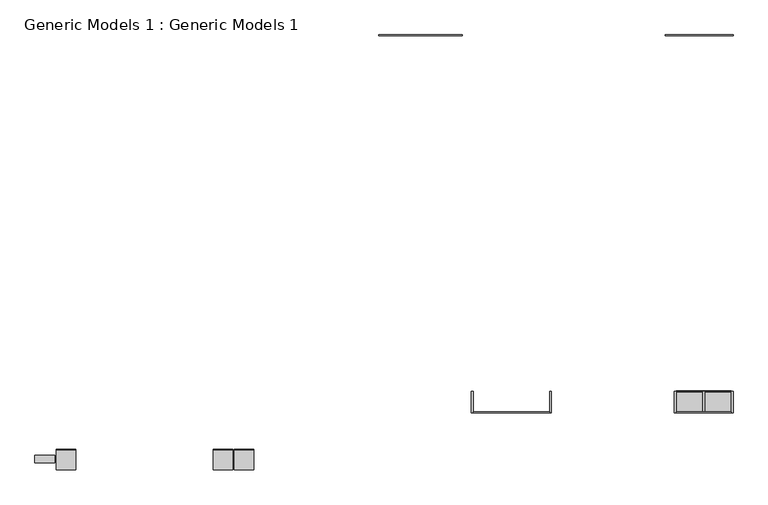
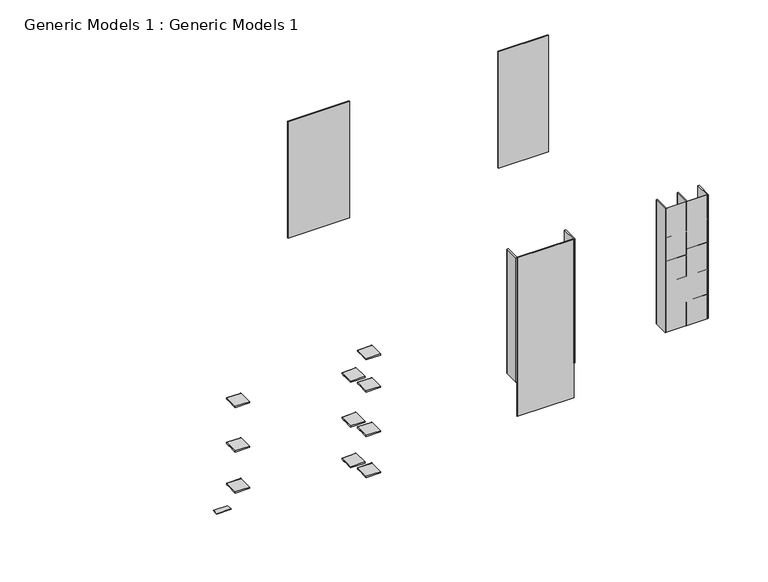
"""IFC4 building model written with IfcOpenShell, lengths in millimetres: proxy geometry, Generic Models 1 : Generic Models 1."""

from ifc_helpers import new_model, si_unit, point, frame, frame_2d, origin, origin_with_axes, place, context, project, spatial, polyline, circle_curve, trimmed, segment, composite_curve, outline, extrude, source, transform, mapped, element, save
from ifc_brep_helpers import plane_surface, cylinder_surface, advanced_brep


def generic_models_1_generic_models_1_fe2f22d1(model_context):
    return source(origin(), model_context, "Body", "SolidModel", [
        extrude(outline(polyline([(-701.4531836, -2690.6595241), (-81.4531836, -2690.6595241), (-81.4531836, -2700.6595241), (-701.4531836, -2700.6595241), (-701.4531836, -2690.6595241)])), frame((0.0, 0.0, 560.0), z_axis=(0.0, 0.0, 1.0), x_axis=(1.0, 0.0, 0.0)), (0.0, 0.0, 1.0), 2000.0),
        extrude(outline(polyline([(-2981.4531836, -2690.6595241), (-2121.4531836, -2690.6595241), (-2121.4531836, -2700.6595241), (-2981.4531836, -2700.6595241), (-2981.4531836, -2690.6595241)])), origin_with_axes(), (0.0, 0.0, 1.0), 2560.0),
        extrude(outline(polyline([(-61.4531836, 1539.3404759), (-821.4531836, 1539.3404759), (-821.4531836, 1549.3404759), (-61.4531836, 1549.3404759), (-61.4531836, 1539.3404759)])), frame((0.0, 0.0, 680.0), z_axis=(0.0, 0.0, 1.0), x_axis=(1.0, 0.0, 0.0)), (0.0, 0.0, 1.0), 1880.0),
        extrude(outline(polyline([(-3101.4531836, 1539.3404759), (-4041.4531836, 1539.3404759), (-4041.4531836, 1549.3404759), (-3101.4531836, 1549.3404759), (-3101.4531836, 1539.3404759)])), frame((0.0, 0.0, 680.0), z_axis=(0.0, 0.0, 1.0), x_axis=(1.0, 0.0, 0.0)), (0.0, 0.0, 1.0), 1880.0),
        advanced_brep(
        [(-3001.4531836, -2700.6595241, 2560.0), (-2981.4531836, -2700.6595241, 2560.0), (-2981.4531836, -2459.6595241, 2560.0), (-2983.4531836, -2457.6595241, 2560.0), (-2999.4531836, -2457.6595241, 2560.0), (-3001.4531836, -2459.6595241, 2560.0), (-3001.4531836, -2700.6595241, 560.0), (-3001.4531836, -2459.6595241, 560.0), (-2999.4531836, -2457.6595241, 560.0), (-2983.4531836, -2457.6595241, 560.0), (-2981.4531836, -2459.6595241, 560.0), (-2981.4531836, -2700.6595241, 560.0)],
        [
            (0, 1),
            (1, 2),
            (2, 3, circle_curve(frame((-2983.4531836, -2459.6595241, 2560.0), z_axis=(0.0, 0.0, 1.0), x_axis=(1.0, 0.0, 0.0)), 2.0)),
            (3, 4),
            (4, 5, circle_curve(frame((-2999.4531836, -2459.6595241, 2560.0), z_axis=(0.0, 0.0, 1.0), x_axis=(1.0, 0.0, 0.0)), 2.0)),
            (5, 0),
            (6, 7),
            (7, 8, circle_curve(frame((-2999.4531836, -2459.6595241, 560.0), z_axis=(0.0, 0.0, -1.0), x_axis=(1.0, 0.0, 0.0)), 2.0)),
            (8, 9),
            (9, 10, circle_curve(frame((-2983.4531836, -2459.6595241, 560.0), z_axis=(0.0, 0.0, -1.0), x_axis=(1.0, 0.0, 0.0)), 2.0)),
            (10, 11),
            (11, 6),
            (0, 6),
            (11, 1),
            (10, 2),
            (9, 3),
            (8, 4),
            (7, 5),
        ],
        [
            plane_surface(frame((-2981.4531836, -2700.6595241, 2560.0), z_axis=(0.0, 0.0, 1.0), x_axis=(1.0, 0.0, 0.0))),
            plane_surface(frame((-2981.4531836, -2700.6595241, 560.0), z_axis=(0.0, 0.0, -1.0), x_axis=(-1.0, 0.0, 0.0))),
            plane_surface(frame((-3001.4531836, -2700.6595241, 2560.0), z_axis=(0.0, -1.0, 0.0), x_axis=(0.0, 0.0, -1.0))),
            plane_surface(frame((-2981.4531836, -2700.6595241, 2560.0), z_axis=(1.0, 0.0, 0.0), x_axis=(0.0, 0.0, -1.0))),
            cylinder_surface(frame((-2983.4531836, -2459.6595241, 560.0), z_axis=(0.0, 0.0, 1.0), x_axis=(1.0, 0.0, 0.0)), 2.0),
            plane_surface(frame((-2983.4531836, -2457.6595241, 2560.0), z_axis=(0.0, 1.0, 0.0), x_axis=(0.0, 0.0, -1.0))),
            cylinder_surface(frame((-2999.4531836, -2459.6595241, 560.0), z_axis=(0.0, 0.0, 1.0), x_axis=(1.0, 0.0, 0.0)), 2.0),
            plane_surface(frame((-3001.4531836, -2459.6595241, 2560.0), z_axis=(-1.0, 0.0, 0.0), x_axis=(0.0, 0.0, -1.0))),
        ],
        [
            (0, [[1, 2, 3, 4, 5, 6]]),
            (1, [[7, 8, 9, 10, 11, 12]]),
            (2, [[-1, 13, -12, 14]]),
            (3, [[-2, -14, -11, 15]]),
            (4, [[-3, -15, -10, 16]]),
            (5, [[-4, -16, -9, 17]]),
            (6, [[-5, -17, -8, 18]]),
            (7, [[-6, -18, -7, -13]]),
        ],
    ),
        advanced_brep(
        [(-2121.4531836, -2700.6595241, 2560.0), (-2101.4531836, -2700.6595241, 2560.0), (-2101.4531836, -2459.6595241, 2560.0), (-2103.4531836, -2457.6595241, 2560.0), (-2119.4531836, -2457.6595241, 2560.0), (-2121.4531836, -2459.6595241, 2560.0), (-2121.4531836, -2700.6595241, 560.0), (-2121.4531836, -2459.6595241, 560.0), (-2119.4531836, -2457.6595241, 560.0), (-2103.4531836, -2457.6595241, 560.0), (-2101.4531836, -2459.6595241, 560.0), (-2101.4531836, -2700.6595241, 560.0)],
        [
            (0, 1),
            (1, 2),
            (2, 3, circle_curve(frame((-2103.4531836, -2459.6595241, 2560.0), z_axis=(0.0, 0.0, 1.0), x_axis=(1.0, 0.0, 0.0)), 2.0)),
            (3, 4),
            (4, 5, circle_curve(frame((-2119.4531836, -2459.6595241, 2560.0), z_axis=(0.0, 0.0, 1.0), x_axis=(1.0, 0.0, 0.0)), 2.0)),
            (5, 0),
            (6, 7),
            (7, 8, circle_curve(frame((-2119.4531836, -2459.6595241, 560.0), z_axis=(0.0, 0.0, -1.0), x_axis=(1.0, 0.0, 0.0)), 2.0)),
            (8, 9),
            (9, 10, circle_curve(frame((-2103.4531836, -2459.6595241, 560.0), z_axis=(0.0, 0.0, -1.0), x_axis=(1.0, 0.0, 0.0)), 2.0)),
            (10, 11),
            (11, 6),
            (0, 6),
            (11, 1),
            (10, 2),
            (9, 3),
            (8, 4),
            (7, 5),
        ],
        [
            plane_surface(frame((-2981.4531836, -2700.6595241, 2560.0), z_axis=(0.0, 0.0, 1.0), x_axis=(1.0, 0.0, 0.0))),
            plane_surface(frame((-2981.4531836, -2700.6595241, 560.0), z_axis=(0.0, 0.0, -1.0), x_axis=(-1.0, 0.0, 0.0))),
            plane_surface(frame((-2121.4531836, -2700.6595241, 2560.0), z_axis=(0.0, -1.0, 0.0), x_axis=(0.0, 0.0, -1.0))),
            plane_surface(frame((-2101.4531836, -2700.6595241, 2560.0), z_axis=(1.0, 0.0, 0.0), x_axis=(0.0, 0.0, -1.0))),
            cylinder_surface(frame((-2103.4531836, -2459.6595241, 0.0), z_axis=(0.0, 0.0, 1.0), x_axis=(1.0, 0.0, 0.0)), 2.0),
            plane_surface(frame((-2103.4531836, -2457.6595241, 2560.0), z_axis=(0.0, 1.0, 0.0), x_axis=(0.0, 0.0, -1.0))),
            cylinder_surface(frame((-2119.4531836, -2459.6595241, 0.0), z_axis=(0.0, 0.0, 1.0), x_axis=(1.0, 0.0, 0.0)), 2.0),
            plane_surface(frame((-2121.4531836, -2459.6595241, 2560.0), z_axis=(-1.0, 0.0, 0.0), x_axis=(0.0, 0.0, -1.0))),
        ],
        [
            (0, [[1, 2, 3, 4, 5, 6]]),
            (1, [[7, 8, 9, 10, 11, 12]]),
            (2, [[-1, 13, -12, 14]]),
            (3, [[-2, -14, -11, 15]]),
            (4, [[-3, -15, -10, 16]]),
            (5, [[-4, -16, -9, 17]]),
            (6, [[-5, -17, -8, 18]]),
            (7, [[-6, -18, -7, -13]]),
        ],
    ),
        advanced_brep(
        [(-721.4531836, -2700.6595241, 2560.0), (-701.4531836, -2700.6595241, 2560.0), (-701.4531836, -2459.6595241, 2560.0), (-703.4531836, -2457.6595241, 2560.0), (-719.4531836, -2457.6595241, 2560.0), (-721.4531836, -2459.6595241, 2560.0), (-383.4531836, -2457.6595241, 2560.0), (-399.4531836, -2457.6595241, 2560.0), (-401.4531836, -2459.6595241, 2560.0), (-401.4531836, -2700.6595241, 2560.0), (-381.4531836, -2700.6595241, 2560.0), (-381.4531836, -2459.6595241, 2560.0), (-81.4531836, -2700.6595241, 2560.0), (-61.4531836, -2700.6595241, 2560.0), (-61.4531836, -2459.6595241, 2560.0), (-63.4531836, -2457.6595241, 2560.0), (-79.4531836, -2457.6595241, 2560.0), (-81.4531836, -2459.6595241, 2560.0), (-721.4531836, -2700.6595241, 560.0), (-721.4531836, -2459.6595241, 560.0), (-719.4531836, -2457.6595241, 560.0), (-703.4531836, -2457.6595241, 560.0), (-701.4531836, -2459.6595241, 560.0), (-701.4531836, -2700.6595241, 560.0), (-383.4531836, -2457.6595241, 560.0), (-381.4531836, -2459.6595241, 560.0), (-381.4531836, -2700.6595241, 560.0), (-401.4531836, -2700.6595241, 560.0), (-401.4531836, -2459.6595241, 560.0), (-399.4531836, -2457.6595241, 560.0), (-81.4531836, -2700.6595241, 560.0), (-81.4531836, -2459.6595241, 560.0), (-79.4531836, -2457.6595241, 560.0), (-63.4531836, -2457.6595241, 560.0), (-61.4531836, -2459.6595241, 560.0), (-61.4531836, -2700.6595241, 560.0), (-701.4531836, -2700.6595241, 940.0), (-401.4531836, -2700.6595241, 940.0), (-381.4531836, -2700.6595241, 940.0), (-81.4531836, -2700.6595241, 940.0), (-81.4531836, -2700.6595241, 2180.0), (-381.4531836, -2700.6595241, 2180.0), (-401.4531836, -2700.6595241, 2090.0), (-701.4531836, -2700.6595241, 2090.0), (-701.4531836, -2700.6595241, 1340.0), (-81.4531836, -2700.6595241, 1340.0), (-81.4531836, -2700.6595241, 960.0), (-701.4531836, -2700.6595241, 960.0), (-81.4531836, -2700.6595241, 1800.0), (-381.4531836, -2700.6595241, 1800.0), (-381.4531836, -2700.6595241, 2160.0), (-81.4531836, -2700.6595241, 2160.0), (-381.4531836, -2700.6595241, 1780.0), (-81.4531836, -2700.6595241, 1780.0), (-81.4531836, -2700.6595241, 1360.0), (-381.4531836, -2700.6595241, 1360.0), (-701.4531836, -2700.6595241, 2070.0), (-401.4531836, -2700.6595241, 2070.0), (-401.4531836, -2700.6595241, 1710.0), (-701.4531836, -2700.6595241, 1710.0), (-701.4531836, -2700.6595241, 1360.0), (-701.4531836, -2700.6595241, 1690.0), (-401.4531836, -2700.6595241, 1690.0), (-401.4531836, -2700.6595241, 1360.0), (-701.4531836, -2463.7614281, 2090.0), (-701.4531836, -2461.7614281, 2088.0), (-701.4531836, -2461.7614281, 2072.0), (-701.4531836, -2463.7614281, 2070.0), (-701.4531836, -2532.321744, 2070.0), (-701.4531836, -2532.321744, 2075.0), (-701.4531836, -2632.321744, 2075.0), (-701.4531836, -2632.321744, 2070.0), (-701.4531836, -2463.7614281, 1710.0), (-701.4531836, -2461.7614281, 1708.0), (-701.4531836, -2461.7614281, 1692.0), (-701.4531836, -2463.7614281, 1690.0), (-701.4531836, -2532.321744, 1690.0), (-701.4531836, -2532.321744, 1700.0), (-701.4531836, -2632.321744, 1700.0), (-701.4531836, -2632.321744, 1690.0), (-701.4531836, -2459.6595241, 1360.0), (-701.4531836, -2459.6595241, 940.0), (-701.4531836, -2532.321744, 940.0), (-701.4531836, -2532.321744, 950.0), (-701.4531836, -2632.321744, 950.0), (-701.4531836, -2632.321744, 940.0), (-701.4531836, -2632.321744, 1340.0), (-701.4531836, -2459.6595241, 960.0), (-701.4531836, -2459.6595241, 1340.0), (-701.4531836, -2532.321744, 1340.0), (-701.4531836, -2532.321744, 1350.0), (-701.4531836, -2632.321744, 1350.0), (-383.4531836, -2457.6595241, 1360.0), (-399.4531836, -2457.6595241, 1360.0), (-399.4531836, -2457.6595241, 940.0), (-383.4531836, -2457.6595241, 940.0), (-401.4531836, -2459.6595241, 1360.0), (-401.4531836, -2459.6595241, 940.0), (-401.4531836, -2632.321744, 1690.0), (-401.4531836, -2632.321744, 1700.0), (-401.4531836, -2532.321744, 1700.0), (-401.4531836, -2532.321744, 1690.0), (-401.4531836, -2463.7614281, 1690.0), (-401.4531836, -2461.7614281, 1692.0), (-401.4531836, -2461.7614281, 1708.0), (-401.4531836, -2463.7614281, 1710.0), (-401.4531836, -2632.321744, 2070.0), (-401.4531836, -2632.321744, 2075.0), (-401.4531836, -2532.321744, 2075.0), (-401.4531836, -2532.321744, 2070.0), (-401.4531836, -2463.7614281, 2070.0), (-401.4531836, -2461.7614281, 2072.0), (-401.4531836, -2461.7614281, 2088.0), (-401.4531836, -2463.7614281, 2090.0), (-401.4531836, -2632.321744, 940.0), (-401.4531836, -2532.321744, 940.0), (-381.4531836, -2463.7614281, 2180.0), (-381.4531836, -2461.7614281, 2178.0), (-381.4531836, -2461.7614281, 2162.0), (-381.4531836, -2463.7614281, 2160.0), (-381.4531836, -2532.321744, 2160.0), (-381.4531836, -2532.321744, 2170.0), (-381.4531836, -2632.321744, 2170.0), (-381.4531836, -2632.321744, 2160.0), (-381.4531836, -2463.7614281, 1800.0), (-381.4531836, -2461.7614281, 1798.0), (-381.4531836, -2461.7614281, 1782.0), (-381.4531836, -2463.7614281, 1780.0), (-381.4531836, -2532.321744, 1780.0), (-381.4531836, -2532.321744, 1790.0), (-381.4531836, -2632.321744, 1790.0), (-381.4531836, -2632.321744, 1780.0), (-381.4531836, -2459.6595241, 1360.0), (-381.4531836, -2459.6595241, 940.0), (-381.4531836, -2532.321744, 940.0), (-381.4531836, -2632.321744, 940.0), (-81.4531836, -2459.6595241, 940.0), (-81.4531836, -2459.6595241, 960.0), (-81.4531836, -2459.6595241, 1340.0), (-81.4531836, -2459.6595241, 1360.0), (-81.4531836, -2632.321744, 1780.0), (-81.4531836, -2632.321744, 1790.0), (-81.4531836, -2532.321744, 1790.0), (-81.4531836, -2532.321744, 1780.0), (-81.4531836, -2463.7614281, 1780.0), (-81.4531836, -2461.7614281, 1782.0), (-81.4531836, -2461.7614281, 1798.0), (-81.4531836, -2463.7614281, 1800.0), (-81.4531836, -2632.321744, 2160.0), (-81.4531836, -2632.321744, 2170.0), (-81.4531836, -2532.321744, 2170.0), (-81.4531836, -2532.321744, 2160.0), (-81.4531836, -2463.7614281, 2160.0), (-81.4531836, -2461.7614281, 2162.0), (-81.4531836, -2461.7614281, 2178.0), (-81.4531836, -2463.7614281, 2180.0), (-81.4531836, -2632.321744, 940.0), (-81.4531836, -2632.321744, 950.0), (-81.4531836, -2532.321744, 950.0), (-81.4531836, -2532.321744, 940.0), (-81.4531836, -2632.321744, 1340.0), (-81.4531836, -2632.321744, 1350.0), (-81.4531836, -2532.321744, 1350.0), (-81.4531836, -2532.321744, 1340.0), (-81.4531836, -2456.6595241, 1340.0), (-81.4531836, -2454.6595241, 1342.0), (-81.4531836, -2454.6595241, 1358.0), (-81.4531836, -2456.6595241, 1360.0), (-701.4531836, -2456.6595241, 1360.0), (-701.4531836, -2454.6595241, 1358.0), (-701.4531836, -2454.6595241, 1342.0), (-701.4531836, -2456.6595241, 1340.0), (-81.4531836, -2456.6595241, 940.0), (-81.4531836, -2454.6595241, 942.0), (-81.4531836, -2454.6595241, 958.0), (-81.4531836, -2456.6595241, 960.0), (-701.4531836, -2456.6595241, 960.0), (-701.4531836, -2454.6595241, 958.0), (-701.4531836, -2454.6595241, 942.0), (-701.4531836, -2456.6595241, 940.0)],
        [
            (0, 1),
            (1, 2),
            (2, 3, circle_curve(frame((-703.4531836, -2459.6595241, 2560.0), z_axis=(0.0, 0.0, 1.0), x_axis=(1.0, 0.0, 0.0)), 2.0)),
            (3, 4),
            (4, 5, circle_curve(frame((-719.4531836, -2459.6595241, 2560.0), z_axis=(0.0, 0.0, 1.0), x_axis=(1.0, 0.0, 0.0)), 2.0)),
            (5, 0),
            (6, 7),
            (7, 8, circle_curve(frame((-399.4531836, -2459.6595241, 2560.0), z_axis=(0.0, 0.0, 1.0), x_axis=(1.0, 0.0, 0.0)), 2.0)),
            (8, 9),
            (9, 10),
            (10, 11),
            (11, 6, circle_curve(frame((-383.4531836, -2459.6595241, 2560.0), z_axis=(0.0, 0.0, 1.0), x_axis=(1.0, 0.0, 0.0)), 2.0)),
            (12, 13),
            (13, 14),
            (14, 15, circle_curve(frame((-63.4531836, -2459.6595241, 2560.0), z_axis=(0.0, 0.0, 1.0), x_axis=(1.0, 0.0, 0.0)), 2.0)),
            (15, 16),
            (16, 17, circle_curve(frame((-79.4531836, -2459.6595241, 2560.0), z_axis=(0.0, 0.0, 1.0), x_axis=(1.0, 0.0, 0.0)), 2.0)),
            (17, 12),
            (18, 19),
            (19, 20, circle_curve(frame((-719.4531836, -2459.6595241, 560.0), z_axis=(0.0, 0.0, -1.0), x_axis=(1.0, 0.0, 0.0)), 2.0)),
            (20, 21),
            (21, 22, circle_curve(frame((-703.4531836, -2459.6595241, 560.0), z_axis=(0.0, 0.0, -1.0), x_axis=(1.0, 0.0, 0.0)), 2.0)),
            (22, 23),
            (23, 18),
            (24, 25, circle_curve(frame((-383.4531836, -2459.6595241, 560.0), z_axis=(0.0, 0.0, -1.0), x_axis=(1.0, 0.0, 0.0)), 2.0)),
            (25, 26),
            (26, 27),
            (27, 28),
            (28, 29, circle_curve(frame((-399.4531836, -2459.6595241, 560.0), z_axis=(0.0, 0.0, -1.0), x_axis=(1.0, 0.0, 0.0)), 2.0)),
            (29, 24),
            (30, 31),
            (31, 32, circle_curve(frame((-79.4531836, -2459.6595241, 560.0), z_axis=(0.0, 0.0, -1.0), x_axis=(1.0, 0.0, 0.0)), 2.0)),
            (32, 33),
            (33, 34, circle_curve(frame((-63.4531836, -2459.6595241, 560.0), z_axis=(0.0, 0.0, -1.0), x_axis=(1.0, 0.0, 0.0)), 2.0)),
            (34, 35),
            (35, 30),
            (0, 18),
            (23, 36),
            (36, 37),
            (37, 27),
            (26, 38),
            (38, 39),
            (39, 30),
            (35, 13),
            (12, 40),
            (40, 41),
            (41, 10),
            (9, 42),
            (42, 43),
            (43, 1),
            (44, 45),
            (45, 46),
            (46, 47),
            (47, 44),
            (48, 49),
            (49, 50),
            (50, 51),
            (51, 48),
            (52, 53),
            (53, 54),
            (54, 55),
            (55, 52),
            (56, 57),
            (57, 58),
            (58, 59),
            (59, 56),
            (60, 61),
            (61, 62),
            (62, 63),
            (63, 60),
            (43, 64),
            (64, 65, circle_curve(frame((-701.4531836, -2463.7614281, 2088.0), z_axis=(-1.0, 0.0, 0.0), x_axis=(0.0, -1.0, 0.0)), 2.0)),
            (65, 66),
            (66, 67, circle_curve(frame((-701.4531836, -2463.7614281, 2072.0), z_axis=(-1.0, 0.0, 0.0), x_axis=(0.0, -1.0, 0.0)), 2.0)),
            (67, 68),
            (68, 69),
            (69, 70),
            (70, 71),
            (71, 56),
            (59, 72),
            (72, 73, circle_curve(frame((-701.4531836, -2463.7614281, 1708.0), z_axis=(-1.0, 0.0, 0.0), x_axis=(0.0, -1.0, 0.0)), 2.0)),
            (73, 74),
            (74, 75, circle_curve(frame((-701.4531836, -2463.7614281, 1692.0), z_axis=(-1.0, 0.0, 0.0), x_axis=(0.0, -1.0, 0.0)), 2.0)),
            (75, 76),
            (76, 77),
            (77, 78),
            (78, 79),
            (79, 61),
            (60, 80),
            (80, 2),
            (22, 81),
            (81, 82),
            (82, 83),
            (83, 84),
            (84, 85),
            (85, 36),
            (86, 44),
            (47, 87),
            (87, 88),
            (88, 89),
            (89, 90),
            (90, 91),
            (91, 86),
            (80, 88),
            (87, 81),
            (21, 3),
            (20, 4),
            (19, 5),
            (6, 92),
            (92, 93),
            (93, 7),
            (29, 94),
            (94, 95),
            (95, 24),
            (93, 96, circle_curve(frame((-399.4531836, -2459.6595241, 1360.0), z_axis=(0.0, 0.0, 1.0), x_axis=(1.0, 0.0, 0.0)), 2.0)),
            (96, 8),
            (28, 97),
            (97, 94, circle_curve(frame((-399.4531836, -2459.6595241, 940.0), z_axis=(0.0, 0.0, -1.0), x_axis=(1.0, 0.0, 0.0)), 2.0)),
            (96, 63),
            (62, 98),
            (98, 99),
            (99, 100),
            (100, 101),
            (101, 102),
            (102, 103, circle_curve(frame((-401.4531836, -2463.7614281, 1692.0), z_axis=(1.0, 0.0, 0.0), x_axis=(0.0, -1.0, 0.0)), 2.0)),
            (103, 104),
            (104, 105, circle_curve(frame((-401.4531836, -2463.7614281, 1708.0), z_axis=(1.0, 0.0, 0.0), x_axis=(0.0, -1.0, 0.0)), 2.0)),
            (105, 58),
            (57, 106),
            (106, 107),
            (107, 108),
            (108, 109),
            (109, 110),
            (110, 111, circle_curve(frame((-401.4531836, -2463.7614281, 2072.0), z_axis=(1.0, 0.0, 0.0), x_axis=(0.0, -1.0, 0.0)), 2.0)),
            (111, 112),
            (112, 113, circle_curve(frame((-401.4531836, -2463.7614281, 2088.0), z_axis=(1.0, 0.0, 0.0), x_axis=(0.0, -1.0, 0.0)), 2.0)),
            (113, 42),
            (37, 114),
            (114, 115),
            (115, 97),
            (41, 116),
            (116, 117, circle_curve(frame((-381.4531836, -2463.7614281, 2178.0), z_axis=(-1.0, 0.0, 0.0), x_axis=(0.0, -1.0, 0.0)), 2.0)),
            (117, 118),
            (118, 119, circle_curve(frame((-381.4531836, -2463.7614281, 2162.0), z_axis=(-1.0, 0.0, 0.0), x_axis=(0.0, -1.0, 0.0)), 2.0)),
            (119, 120),
            (120, 121),
            (121, 122),
            (122, 123),
            (123, 50),
            (49, 124),
            (124, 125, circle_curve(frame((-381.4531836, -2463.7614281, 1798.0), z_axis=(-1.0, 0.0, 0.0), x_axis=(0.0, -1.0, 0.0)), 2.0)),
            (125, 126),
            (126, 127, circle_curve(frame((-381.4531836, -2463.7614281, 1782.0), z_axis=(-1.0, 0.0, 0.0), x_axis=(0.0, -1.0, 0.0)), 2.0)),
            (127, 128),
            (128, 129),
            (129, 130),
            (130, 131),
            (131, 52),
            (55, 132),
            (132, 11),
            (25, 133),
            (133, 134),
            (134, 135),
            (135, 38),
            (132, 92, circle_curve(frame((-383.4531836, -2459.6595241, 1360.0), z_axis=(0.0, 0.0, 1.0), x_axis=(1.0, 0.0, 0.0)), 2.0)),
            (95, 133, circle_curve(frame((-383.4531836, -2459.6595241, 940.0), z_axis=(0.0, 0.0, -1.0), x_axis=(1.0, 0.0, 0.0)), 2.0)),
            (34, 14),
            (33, 15),
            (32, 16),
            (31, 136),
            (136, 137),
            (137, 138),
            (138, 139),
            (139, 17),
            (139, 54),
            (53, 140),
            (140, 141),
            (141, 142),
            (142, 143),
            (143, 144),
            (144, 145, circle_curve(frame((-81.4531836, -2463.7614281, 1782.0), z_axis=(1.0, 0.0, 0.0), x_axis=(0.0, -1.0, 0.0)), 2.0)),
            (145, 146),
            (146, 147, circle_curve(frame((-81.4531836, -2463.7614281, 1798.0), z_axis=(1.0, 0.0, 0.0), x_axis=(0.0, -1.0, 0.0)), 2.0)),
            (147, 48),
            (51, 148),
            (148, 149),
            (149, 150),
            (150, 151),
            (151, 152),
            (152, 153, circle_curve(frame((-81.4531836, -2463.7614281, 2162.0), z_axis=(1.0, 0.0, 0.0), x_axis=(0.0, -1.0, 0.0)), 2.0)),
            (153, 154),
            (154, 155, circle_curve(frame((-81.4531836, -2463.7614281, 2178.0), z_axis=(1.0, 0.0, 0.0), x_axis=(0.0, -1.0, 0.0)), 2.0)),
            (155, 40),
            (39, 156),
            (156, 157),
            (157, 158),
            (158, 159),
            (159, 136),
            (45, 160),
            (160, 161),
            (161, 162),
            (162, 163),
            (163, 138),
            (137, 46),
            (164, 165, circle_curve(frame((-81.4531836, -2456.6595241, 1342.0), z_axis=(1.0, 0.0, 0.0), x_axis=(0.0, -1.0, 0.0)), 2.0)),
            (165, 166),
            (166, 167, circle_curve(frame((-81.4531836, -2456.6595241, 1358.0), z_axis=(1.0, 0.0, 0.0), x_axis=(0.0, -1.0, 0.0)), 2.0)),
            (167, 139),
            (138, 164),
            (168, 169, circle_curve(frame((-701.4531836, -2456.6595241, 1358.0), z_axis=(-1.0, 0.0, 0.0), x_axis=(0.0, -1.0, 0.0)), 2.0)),
            (169, 170),
            (170, 171, circle_curve(frame((-701.4531836, -2456.6595241, 1342.0), z_axis=(-1.0, 0.0, 0.0), x_axis=(0.0, -1.0, 0.0)), 2.0)),
            (171, 88),
            (80, 168),
            (86, 160),
            (91, 161),
            (90, 162),
            (89, 163),
            (171, 164),
            (170, 165),
            (169, 166),
            (168, 167),
            (131, 140),
            (130, 141),
            (129, 142),
            (128, 143),
            (127, 144),
            (126, 145),
            (125, 146),
            (124, 147),
            (123, 148),
            (122, 149),
            (121, 150),
            (120, 151),
            (119, 152),
            (118, 153),
            (117, 154),
            (116, 155),
            (172, 173, circle_curve(frame((-81.4531836, -2456.6595241, 942.0), z_axis=(1.0, 0.0, 0.0), x_axis=(0.0, -1.0, 0.0)), 2.0)),
            (173, 174),
            (174, 175, circle_curve(frame((-81.4531836, -2456.6595241, 958.0), z_axis=(1.0, 0.0, 0.0), x_axis=(0.0, -1.0, 0.0)), 2.0)),
            (175, 137),
            (136, 172),
            (176, 177, circle_curve(frame((-701.4531836, -2456.6595241, 958.0), z_axis=(-1.0, 0.0, 0.0), x_axis=(0.0, -1.0, 0.0)), 2.0)),
            (177, 178),
            (178, 179, circle_curve(frame((-701.4531836, -2456.6595241, 942.0), z_axis=(-1.0, 0.0, 0.0), x_axis=(0.0, -1.0, 0.0)), 2.0)),
            (179, 81),
            (87, 176),
            (85, 114),
            (135, 156),
            (84, 157),
            (135, 114),
            (83, 158),
            (82, 115),
            (115, 134),
            (134, 159),
            (179, 172),
            (178, 173),
            (177, 174),
            (176, 175),
            (79, 98),
            (78, 99),
            (77, 100),
            (76, 101),
            (75, 102),
            (74, 103),
            (73, 104),
            (72, 105),
            (71, 106),
            (70, 107),
            (68, 109),
            (108, 69),
            (67, 110),
            (66, 111),
            (65, 112),
            (64, 113),
        ],
        [
            plane_surface(frame((-2981.4531836, -2700.6595241, 2560.0), z_axis=(0.0, 0.0, 1.0), x_axis=(1.0, 0.0, 0.0))),
            plane_surface(frame((-2981.4531836, -2700.6595241, 560.0), z_axis=(0.0, 0.0, -1.0), x_axis=(-1.0, 0.0, 0.0))),
            plane_surface(frame((-721.4531836, -2700.6595241, 2560.0), z_axis=(0.0, -1.0, 0.0), x_axis=(0.0, 0.0, -1.0))),
            plane_surface(frame((-701.4531836, -2700.6595241, 2560.0), z_axis=(1.0, 0.0, 0.0), x_axis=(0.0, 0.0, -1.0))),
            cylinder_surface(frame((-703.4531836, -2459.6595241, 0.0), z_axis=(0.0, 0.0, 1.0), x_axis=(1.0, 0.0, 0.0)), 2.0),
            plane_surface(frame((-703.4531836, -2457.6595241, 2560.0), z_axis=(0.0, 1.0, 0.0), x_axis=(0.0, 0.0, -1.0))),
            cylinder_surface(frame((-719.4531836, -2459.6595241, 0.0), z_axis=(0.0, 0.0, 1.0), x_axis=(1.0, 0.0, 0.0)), 2.0),
            plane_surface(frame((-721.4531836, -2459.6595241, 2560.0), z_axis=(-1.0, 0.0, 0.0), x_axis=(0.0, 0.0, -1.0))),
            plane_surface(frame((-383.4531836, -2457.6595241, 2560.0), z_axis=(0.0, 1.0, 0.0), x_axis=(0.0, 0.0, -1.0))),
            cylinder_surface(frame((-399.4531836, -2459.6595241, 0.0), z_axis=(0.0, 0.0, 1.0), x_axis=(1.0, 0.0, 0.0)), 2.0),
            plane_surface(frame((-401.4531836, -2459.6595241, 2560.0), z_axis=(-1.0, 0.0, 0.0), x_axis=(0.0, 0.0, -1.0))),
            plane_surface(frame((-381.4531836, -2700.6595241, 2560.0), z_axis=(1.0, 0.0, 0.0), x_axis=(0.0, 0.0, -1.0))),
            cylinder_surface(frame((-383.4531836, -2459.6595241, 0.0), z_axis=(0.0, 0.0, 1.0), x_axis=(1.0, 0.0, 0.0)), 2.0),
            plane_surface(frame((-61.4531836, -2700.6595241, 2560.0), z_axis=(1.0, 0.0, 0.0), x_axis=(0.0, 0.0, -1.0))),
            cylinder_surface(frame((-63.4531836, -2459.6595241, 0.0), z_axis=(0.0, 0.0, 1.0), x_axis=(1.0, 0.0, 0.0)), 2.0),
            plane_surface(frame((-63.4531836, -2457.6595241, 2560.0), z_axis=(0.0, 1.0, 0.0), x_axis=(0.0, 0.0, -1.0))),
            cylinder_surface(frame((-79.4531836, -2459.6595241, 0.0), z_axis=(0.0, 0.0, 1.0), x_axis=(1.0, 0.0, 0.0)), 2.0),
            plane_surface(frame((-81.4531836, -2459.6595241, 2560.0), z_axis=(-1.0, 0.0, 0.0), x_axis=(0.0, 0.0, -1.0))),
            plane_surface(frame((-81.4531836, -2700.6595241, 1360.0), z_axis=(1.0, 0.0, 0.0), x_axis=(0.0, 0.0, -1.0))),
            plane_surface(frame((-701.4531836, -2700.6595241, 1360.0), z_axis=(-1.0, 0.0, 0.0), x_axis=(0.0, 0.0, 1.0))),
            plane_surface(frame((-81.4531836, -2700.6595241, 1340.0), z_axis=(0.0, 0.0, -1.0), x_axis=(-1.0, 0.0, 0.0))),
            plane_surface(frame((-81.4531836, -2632.321744, 1340.0), z_axis=(0.0, 1.0, 0.0), x_axis=(-1.0, 0.0, 0.0))),
            plane_surface(frame((-81.4531836, -2632.321744, 1350.0), z_axis=(0.0, 0.0, -1.0), x_axis=(-1.0, 0.0, 0.0))),
            plane_surface(frame((-81.4531836, -2532.321744, 1350.0), z_axis=(0.0, -1.0, 0.0), x_axis=(-1.0, 0.0, 0.0))),
            plane_surface(frame((-81.4531836, -2532.321744, 1340.0), z_axis=(0.0, 0.0, -1.0), x_axis=(-1.0, 0.0, 0.0))),
            cylinder_surface(frame((-701.4531836, -2456.6595241, 1342.0), z_axis=(1.0, 0.0, 0.0), x_axis=(0.0, -1.0, 0.0)), 2.0),
            plane_surface(frame((-81.4531836, -2454.6595241, 1342.0), z_axis=(0.0, 1.0, 0.0), x_axis=(-1.0, 0.0, 0.0))),
            cylinder_surface(frame((-701.4531836, -2456.6595241, 1358.0), z_axis=(1.0, 0.0, 0.0), x_axis=(0.0, -1.0, 0.0)), 2.0),
            plane_surface(frame((-81.4531836, -2456.6595241, 1360.0), z_axis=(0.0, 0.0, 1.0), x_axis=(-1.0, 0.0, 0.0))),
            plane_surface(frame((-81.4531836, -2700.6595241, 1780.0), z_axis=(0.0, 0.0, -1.0), x_axis=(-1.0, 0.0, 0.0))),
            plane_surface(frame((-81.4531836, -2632.321744, 1780.0), z_axis=(0.0, 1.0, 0.0), x_axis=(-1.0, 0.0, 0.0))),
            plane_surface(frame((-81.4531836, -2632.321744, 1790.0), z_axis=(0.0, 0.0, -1.0), x_axis=(-1.0, 0.0, 0.0))),
            plane_surface(frame((-81.4531836, -2532.321744, 1790.0), z_axis=(0.0, -1.0, 0.0), x_axis=(-1.0, 0.0, 0.0))),
            plane_surface(frame((-81.4531836, -2532.321744, 1780.0), z_axis=(0.0, 0.0, -1.0), x_axis=(-1.0, 0.0, 0.0))),
            cylinder_surface(frame((-381.4531836, -2463.7614281, 1782.0), z_axis=(1.0, 0.0, 0.0), x_axis=(0.0, -1.0, 0.0)), 2.0),
            plane_surface(frame((-81.4531836, -2461.7614281, 1782.0), z_axis=(0.0, 1.0, 0.0), x_axis=(-1.0, 0.0, 0.0))),
            cylinder_surface(frame((-381.4531836, -2463.7614281, 1798.0), z_axis=(1.0, 0.0, 0.0), x_axis=(0.0, -1.0, 0.0)), 2.0),
            plane_surface(frame((-81.4531836, -2463.7614281, 1800.0), z_axis=(0.0, 0.0, 1.0), x_axis=(-1.0, 0.0, 0.0))),
            plane_surface(frame((-81.4531836, -2700.6595241, 2160.0), z_axis=(0.0, 0.0, -1.0), x_axis=(-1.0, 0.0, 0.0))),
            plane_surface(frame((-81.4531836, -2632.321744, 2160.0), z_axis=(0.0, 1.0, 0.0), x_axis=(-1.0, 0.0, 0.0))),
            plane_surface(frame((-81.4531836, -2632.321744, 2170.0), z_axis=(0.0, 0.0, -1.0), x_axis=(-1.0, 0.0, 0.0))),
            plane_surface(frame((-81.4531836, -2532.321744, 2170.0), z_axis=(0.0, -1.0, 0.0), x_axis=(-1.0, 0.0, 0.0))),
            plane_surface(frame((-81.4531836, -2532.321744, 2160.0), z_axis=(0.0, 0.0, -1.0), x_axis=(-1.0, 0.0, 0.0))),
            cylinder_surface(frame((-381.4531836, -2463.7614281, 2162.0), z_axis=(1.0, 0.0, 0.0), x_axis=(0.0, -1.0, 0.0)), 2.0),
            plane_surface(frame((-81.4531836, -2461.7614281, 2162.0), z_axis=(0.0, 1.0, 0.0), x_axis=(-1.0, 0.0, 0.0))),
            cylinder_surface(frame((-381.4531836, -2463.7614281, 2178.0), z_axis=(1.0, 0.0, 0.0), x_axis=(0.0, -1.0, 0.0)), 2.0),
            plane_surface(frame((-81.4531836, -2463.7614281, 2180.0), z_axis=(0.0, 0.0, 1.0), x_axis=(-1.0, 0.0, 0.0))),
            plane_surface(frame((-81.4531836, -2700.6595241, 960.0), z_axis=(1.0, 0.0, 0.0), x_axis=(0.0, 0.0, -1.0))),
            plane_surface(frame((-701.4531836, -2700.6595241, 960.0), z_axis=(-1.0, 0.0, 0.0), x_axis=(0.0, 0.0, 1.0))),
            plane_surface(frame((-81.4531836, -2700.6595241, 940.0), z_axis=(0.0, 0.0, -1.0), x_axis=(-1.0, 0.0, 0.0))),
            plane_surface(frame((-81.4531836, -2632.321744, 940.0), z_axis=(0.0, 1.0, 0.0), x_axis=(-1.0, 0.0, 0.0))),
            plane_surface(frame((-81.4531836, -2632.321744, 950.0), z_axis=(0.0, 0.0, -1.0), x_axis=(-1.0, 0.0, 0.0))),
            plane_surface(frame((-81.4531836, -2532.321744, 950.0), z_axis=(0.0, -1.0, 0.0), x_axis=(-1.0, 0.0, 0.0))),
            plane_surface(frame((-81.4531836, -2532.321744, 940.0), z_axis=(0.0, 0.0, -1.0), x_axis=(-1.0, 0.0, 0.0))),
            cylinder_surface(frame((-701.4531836, -2456.6595241, 942.0), z_axis=(1.0, 0.0, 0.0), x_axis=(0.0, -1.0, 0.0)), 2.0),
            plane_surface(frame((-81.4531836, -2454.6595241, 942.0), z_axis=(0.0, 1.0, 0.0), x_axis=(-1.0, 0.0, 0.0))),
            cylinder_surface(frame((-701.4531836, -2456.6595241, 958.0), z_axis=(1.0, 0.0, 0.0), x_axis=(0.0, -1.0, 0.0)), 2.0),
            plane_surface(frame((-81.4531836, -2456.6595241, 960.0), z_axis=(0.0, 0.0, 1.0), x_axis=(-1.0, 0.0, 0.0))),
            plane_surface(frame((-401.4531836, -2700.6595241, 1690.0), z_axis=(0.0, 0.0, -1.0), x_axis=(-1.0, 0.0, 0.0))),
            plane_surface(frame((-401.4531836, -2632.321744, 1690.0), z_axis=(0.0, 1.0, 0.0), x_axis=(-1.0, 0.0, 0.0))),
            plane_surface(frame((-401.4531836, -2632.321744, 1700.0), z_axis=(0.0, 0.0, -1.0), x_axis=(-1.0, 0.0, 0.0))),
            plane_surface(frame((-401.4531836, -2532.321744, 1700.0), z_axis=(0.0, -1.0, 0.0), x_axis=(-1.0, 0.0, 0.0))),
            plane_surface(frame((-401.4531836, -2532.321744, 1690.0), z_axis=(0.0, 0.0, -1.0), x_axis=(-1.0, 0.0, 0.0))),
            cylinder_surface(frame((-701.4531836, -2463.7614281, 1692.0), z_axis=(1.0, 0.0, 0.0), x_axis=(0.0, -1.0, 0.0)), 2.0),
            plane_surface(frame((-401.4531836, -2461.7614281, 1692.0), z_axis=(0.0, 1.0, 0.0), x_axis=(-1.0, 0.0, 0.0))),
            cylinder_surface(frame((-701.4531836, -2463.7614281, 1708.0), z_axis=(1.0, 0.0, 0.0), x_axis=(0.0, -1.0, 0.0)), 2.0),
            plane_surface(frame((-401.4531836, -2463.7614281, 1710.0), z_axis=(0.0, 0.0, 1.0), x_axis=(-1.0, 0.0, 0.0))),
            plane_surface(frame((-401.4531836, -2700.6595241, 2070.0), z_axis=(0.0, 0.0, -1.0), x_axis=(-1.0, 0.0, 0.0))),
            plane_surface(frame((-401.4531836, -2632.321744, 2070.0), z_axis=(0.0, 1.0, 0.0), x_axis=(-1.0, 0.0, 0.0))),
            plane_surface(frame((-401.4531836, -2532.321744, 2080.0), z_axis=(0.0, -1.0, 0.0), x_axis=(-1.0, 0.0, 0.0))),
            plane_surface(frame((-401.4531836, -2532.321744, 2070.0), z_axis=(0.0, 0.0, -1.0), x_axis=(-1.0, 0.0, 0.0))),
            cylinder_surface(frame((-701.4531836, -2463.7614281, 2072.0), z_axis=(1.0, 0.0, 0.0), x_axis=(0.0, -1.0, 0.0)), 2.0),
            plane_surface(frame((-401.4531836, -2461.7614281, 2072.0), z_axis=(0.0, 1.0, 0.0), x_axis=(-1.0, 0.0, 0.0))),
            cylinder_surface(frame((-701.4531836, -2463.7614281, 2088.0), z_axis=(1.0, 0.0, 0.0), x_axis=(0.0, -1.0, 0.0)), 2.0),
            plane_surface(frame((-401.4531836, -2463.7614281, 2090.0), z_axis=(0.0, 0.0, 1.0), x_axis=(-1.0, 0.0, 0.0))),
            plane_surface(frame((-401.4531836, -2632.321744, 2075.0), z_axis=(0.0, 0.0, -1.0), x_axis=(-1.0, 0.0, 0.0))),
            plane_surface(frame((-381.4531836, -2450.6595241, 940.0), z_axis=(0.0, 0.0, 1.0), x_axis=(0.0, -1.0, 0.0))),
        ],
        [
            (0, [[1, 2, 3, 4, 5, 6]]),
            (0, [[7, 8, 9, 10, 11, 12]]),
            (0, [[13, 14, 15, 16, 17, 18]]),
            (1, [[19, 20, 21, 22, 23, 24]]),
            (1, [[25, 26, 27, 28, 29, 30]]),
            (1, [[31, 32, 33, 34, 35, 36]]),
            (2, [[-1, 37, -24, 38, 39, 40, -27, 41, 42, 43, -36, 44, -13, 45, 46, 47, -10, 48, 49, 50], [51, 52, 53, 54], [55, 56, 57, 58], [59, 60, 61, 62], [63, 64, 65, 66], [67, 68, 69, 70]]),
            (3, [[-2, -50, 71, 72, 73, 74, 75, 76, 77, 78, 79, -66, 80, 81, 82, 83, 84, 85, 86, 87, 88, -67, 89, 90]]),
            (3, [[-23, 91, 92, 93, 94, 95, 96, -38]]),
            (3, [[97, -54, 98, 99, 100, 101, 102, 103]]),
            (4, [[-3, -90, 104, -99, 105, -91, -22, 106]]),
            (5, [[-4, -106, -21, 107]]),
            (6, [[-5, -107, -20, 108]]),
            (7, [[-6, -108, -19, -37]]),
            (8, [[-7, 109, 110, 111]]),
            (8, [[-30, 112, 113, 114]]),
            (9, [[-8, -111, 115, 116]]),
            (9, [[-29, 117, 118, -112]]),
            (10, [[-9, -116, 119, -69, 120, 121, 122, 123, 124, 125, 126, 127, 128, -64, 129, 130, 131, 132, 133, 134, 135, 136, 137, -48]]),
            (10, [[-28, -40, 138, 139, 140, -117]]),
            (11, [[-11, -47, 141, 142, 143, 144, 145, 146, 147, 148, 149, -56, 150, 151, 152, 153, 154, 155, 156, 157, 158, -62, 159, 160]]),
            (11, [[-26, 161, 162, 163, 164, -41]]),
            (12, [[-12, -160, 165, -109]]),
            (12, [[-25, -114, 166, -161]]),
            (13, [[-14, -44, -35, 167]]),
            (14, [[-15, -167, -34, 168]]),
            (15, [[-16, -168, -33, 169]]),
            (16, [[-17, -169, -32, 170, 171, 172, 173, 174]]),
            (17, [[-18, -174, 175, -60, 176, 177, 178, 179, 180, 181, 182, 183, 184, -58, 185, 186, 187, 188, 189, 190, 191, 192, 193, -45]]),
            (17, [[-31, -43, 194, 195, 196, 197, 198, -170]]),
            (17, [[199, 200, 201, 202, 203, -172, 204, -52]]),
            (18, [[205, 206, 207, 208, -173, 209]]),
            (19, [[210, 211, 212, 213, -104, 214]]),
            (20, [[-51, -97, 215, -199]]),
            (21, [[-215, -103, 216, -200]]),
            (22, [[-216, -102, 217, -201]]),
            (23, [[-217, -101, 218, -202]]),
            (24, [[-218, -100, -213, 219, -209, -203]]),
            (25, [[-205, -219, -212, 220]]),
            (26, [[-206, -220, -211, 221]]),
            (27, [[-207, -221, -210, 222]]),
            (28, [[-222, -214, -89, -70, -119, -115, -110, -165, -159, -61, -175, -208]]),
            (29, [[-59, -158, 223, -176]]),
            (30, [[-223, -157, 224, -177]]),
            (31, [[-224, -156, 225, -178]]),
            (32, [[-225, -155, 226, -179]]),
            (33, [[-226, -154, 227, -180]]),
            (34, [[-227, -153, 228, -181]]),
            (35, [[-228, -152, 229, -182]]),
            (36, [[-229, -151, 230, -183]]),
            (37, [[-55, -184, -230, -150]]),
            (38, [[-57, -149, 231, -185]]),
            (39, [[-231, -148, 232, -186]]),
            (40, [[-232, -147, 233, -187]]),
            (41, [[-233, -146, 234, -188]]),
            (42, [[-234, -145, 235, -189]]),
            (43, [[-235, -144, 236, -190]]),
            (44, [[-236, -143, 237, -191]]),
            (45, [[-237, -142, 238, -192]]),
            (46, [[-46, -193, -238, -141]]),
            (47, [[239, 240, 241, 242, -171, 243]]),
            (48, [[244, 245, 246, 247, -105, 248]]),
            (49, [[-39, -96, 249, -138]]),
            (49, [[-42, -164, 250, -194]]),
            (50, [[251, -195, -250, 252, -249, -95]]),
            (51, [[-251, -94, 253, -196]]),
            (52, [[-253, -93, 254, 255, 256, -197]]),
            (53, [[257, -243, -198, -256, -162, -166, -113, -118, -140, -254, -92, -247]]),
            (54, [[-239, -257, -246, 258]]),
            (55, [[-240, -258, -245, 259]]),
            (56, [[-241, -259, -244, 260]]),
            (57, [[-53, -204, -242, -260, -248, -98]]),
            (58, [[-68, -88, 261, -120]]),
            (59, [[-261, -87, 262, -121]]),
            (60, [[-262, -86, 263, -122]]),
            (61, [[-263, -85, 264, -123]]),
            (62, [[-264, -84, 265, -124]]),
            (63, [[-265, -83, 266, -125]]),
            (64, [[-266, -82, 267, -126]]),
            (65, [[-267, -81, 268, -127]]),
            (66, [[-65, -128, -268, -80]]),
            (67, [[-63, -79, 269, -129]]),
            (68, [[-269, -78, 270, -130]]),
            (69, [[271, -132, 272, -76]]),
            (70, [[-271, -75, 273, -133]]),
            (71, [[-273, -74, 274, -134]]),
            (72, [[-274, -73, 275, -135]]),
            (73, [[-275, -72, 276, -136]]),
            (74, [[-49, -137, -276, -71]]),
            (75, [[-77, -272, -131, -270]]),
            (76, [[-139, -252, -163, -255]]),
        ],
    ),
        extrude(outline(polyline([(-5661.4478465, -3260.0144586), (-5661.4478465, -3175.6595241), (-5441.4425093, -3175.6595241), (-5441.4425093, -3260.0144586), (-5661.4478465, -3260.0144586)])), frame((0.0, 0.0, 2244.604945), z_axis=(0.0, 0.0, 1.0), x_axis=(1.0, 0.0, 0.0)), (0.0, 0.0, 1.0), 6.5),
        extrude(outline(composite_curve([segment(trimmed(circle_curve(frame_2d((-3112.6595241, 2256.104945)), 2.0), [point((-3112.6595241, 2258.104945))], [point((-3110.6595241, 2256.104945))], False, "CARTESIAN"), True, "CONTINUOUS"), segment(polyline([(-3110.6595241, 2256.104945), (-3110.6595241, 2240.104945)]), True, "CONTINUOUS"), segment(trimmed(circle_curve(frame_2d((-3112.6595241, 2240.104945)), 2.0), [point((-3110.6595241, 2240.104945))], [point((-3112.6595241, 2238.104945))], False, "CARTESIAN"), True, "CONTINUOUS"), segment(polyline([(-3112.6595241, 2238.104945), (-3175.6595241, 2238.104945), (-3175.6595241, 2251.104945), (-3260.0144586, 2251.104945), (-3260.0144586, 2238.104945), (-3340.6595241, 2238.104945), (-3340.6595241, 2258.104945), (-3112.6595241, 2258.104945)]), True, "CONTINUOUS")], self_intersect=False)), frame((-5661.4478465, 0.0, 0.0), z_axis=(1.0, 0.0, 0.0), x_axis=(0.0, 1.0, 0.0)), (0.0, 0.0, 1.0), 220.0053372),
        extrude(outline(polyline([(-5901.4531836, -3260.0144586), (-5901.4531836, -3175.6595241), (-5681.4478465, -3175.6595241), (-5681.4478465, -3260.0144586), (-5901.4531836, -3260.0144586)])), frame((0.0, 0.0, 584.604945), z_axis=(0.0, 0.0, 1.0), x_axis=(1.0, 0.0, 0.0)), (0.0, 0.0, 1.0), 6.5),
        extrude(outline(composite_curve([segment(trimmed(circle_curve(frame_2d((-3112.6595241, 596.104945)), 2.0), [point((-3112.6595241, 598.104945))], [point((-3110.6595241, 596.104945))], False, "CARTESIAN"), True, "CONTINUOUS"), segment(polyline([(-3110.6595241, 596.104945), (-3110.6595241, 580.104945)]), True, "CONTINUOUS"), segment(trimmed(circle_curve(frame_2d((-3112.6595241, 580.104945)), 2.0), [point((-3110.6595241, 580.104945))], [point((-3112.6595241, 578.104945))], False, "CARTESIAN"), True, "CONTINUOUS"), segment(polyline([(-3112.6595241, 578.104945), (-3175.6595241, 578.104945), (-3175.6595241, 591.104945), (-3260.0144586, 591.104945), (-3260.0144586, 578.104945), (-3340.6595241, 578.104945), (-3340.6595241, 598.104945), (-3112.6595241, 598.104945)]), True, "CONTINUOUS")], self_intersect=False)), frame((-5901.4531836, 0.0, 0.0), z_axis=(1.0, 0.0, 0.0), x_axis=(0.0, 1.0, 0.0)), (0.0, 0.0, 1.0), 220.0053372),
        extrude(outline(polyline([(-5901.4531836, -3260.0144586), (-5901.4531836, -3175.6595241), (-5681.4478465, -3175.6595241), (-5681.4478465, -3260.0144586), (-5901.4531836, -3260.0144586)])), frame((0.0, 0.0, 1244.604945), z_axis=(0.0, 0.0, 1.0), x_axis=(1.0, 0.0, 0.0)), (0.0, 0.0, 1.0), 6.5),
        extrude(outline(composite_curve([segment(trimmed(circle_curve(frame_2d((-3112.6595241, 1256.104945)), 2.0), [point((-3112.6595241, 1258.104945))], [point((-3110.6595241, 1256.104945))], False, "CARTESIAN"), True, "CONTINUOUS"), segment(polyline([(-3110.6595241, 1256.104945), (-3110.6595241, 1240.104945)]), True, "CONTINUOUS"), segment(trimmed(circle_curve(frame_2d((-3112.6595241, 1240.104945)), 2.0), [point((-3110.6595241, 1240.104945))], [point((-3112.6595241, 1238.104945))], False, "CARTESIAN"), True, "CONTINUOUS"), segment(polyline([(-3112.6595241, 1238.104945), (-3175.6595241, 1238.104945), (-3175.6595241, 1251.104945), (-3260.0144586, 1251.104945), (-3260.0144586, 1238.104945), (-3340.6595241, 1238.104945), (-3340.6595241, 1258.104945), (-3112.6595241, 1258.104945)]), True, "CONTINUOUS")], self_intersect=False)), frame((-5901.4531836, 0.0, 0.0), z_axis=(1.0, 0.0, 0.0), x_axis=(0.0, 1.0, 0.0)), (0.0, 0.0, 1.0), 220.0053372),
        extrude(outline(polyline([(-5901.4531836, -3260.0144586), (-5901.4531836, -3175.6595241), (-5681.4478465, -3175.6595241), (-5681.4478465, -3260.0144586), (-5901.4531836, -3260.0144586)])), frame((0.0, 0.0, 1964.604945), z_axis=(0.0, 0.0, 1.0), x_axis=(1.0, 0.0, 0.0)), (0.0, 0.0, 1.0), 6.5),
        extrude(outline(composite_curve([segment(trimmed(circle_curve(frame_2d((-3112.6595241, 1976.104945)), 2.0), [point((-3112.6595241, 1978.104945))], [point((-3110.6595241, 1976.104945))], False, "CARTESIAN"), True, "CONTINUOUS"), segment(polyline([(-3110.6595241, 1976.104945), (-3110.6595241, 1960.104945)]), True, "CONTINUOUS"), segment(trimmed(circle_curve(frame_2d((-3112.6595241, 1960.104945)), 2.0), [point((-3110.6595241, 1960.104945))], [point((-3112.6595241, 1958.104945))], False, "CARTESIAN"), True, "CONTINUOUS"), segment(polyline([(-3112.6595241, 1958.104945), (-3175.6595241, 1958.104945), (-3175.6595241, 1971.104945), (-3260.0144586, 1971.104945), (-3260.0144586, 1958.104945), (-3340.6595241, 1958.104945), (-3340.6595241, 1978.104945), (-3112.6595241, 1978.104945)]), True, "CONTINUOUS")], self_intersect=False)), frame((-5901.4531836, 0.0, 0.0), z_axis=(1.0, 0.0, 0.0), x_axis=(0.0, 1.0, 0.0)), (0.0, 0.0, 1.0), 220.0053372),
        extrude(outline(polyline([(-5661.4478465, -3260.0144586), (-5661.4478465, -3175.6595241), (-5441.4425093, -3175.6595241), (-5441.4425093, -3260.0144586), (-5661.4478465, -3260.0144586)])), frame((0.0, 0.0, 344.604945), z_axis=(0.0, 0.0, 1.0), x_axis=(1.0, 0.0, 0.0)), (0.0, 0.0, 1.0), 6.5),
        extrude(outline(composite_curve([segment(trimmed(circle_curve(frame_2d((-3112.6595241, 356.104945)), 2.0), [point((-3112.6595241, 358.104945))], [point((-3110.6595241, 356.104945))], False, "CARTESIAN"), True, "CONTINUOUS"), segment(polyline([(-3110.6595241, 356.104945), (-3110.6595241, 340.104945)]), True, "CONTINUOUS"), segment(trimmed(circle_curve(frame_2d((-3112.6595241, 340.104945)), 2.0), [point((-3110.6595241, 340.104945))], [point((-3112.6595241, 338.104945))], False, "CARTESIAN"), True, "CONTINUOUS"), segment(polyline([(-3112.6595241, 338.104945), (-3175.6595241, 338.104945), (-3175.6595241, 351.104945), (-3260.0144586, 351.104945), (-3260.0144586, 338.104945), (-3340.6595241, 338.104945), (-3340.6595241, 358.104945), (-3112.6595241, 358.104945)]), True, "CONTINUOUS")], self_intersect=False)), frame((-5661.4478465, 0.0, 0.0), z_axis=(1.0, 0.0, 0.0), x_axis=(0.0, 1.0, 0.0)), (0.0, 0.0, 1.0), 220.0053372),
        extrude(outline(polyline([(-5661.4478465, -3260.0144586), (-5661.4478465, -3175.6595241), (-5441.4425093, -3175.6595241), (-5441.4425093, -3260.0144586), (-5661.4478465, -3260.0144586)])), frame((0.0, 0.0, 1004.604945), z_axis=(0.0, 0.0, 1.0), x_axis=(1.0, 0.0, 0.0)), (0.0, 0.0, 1.0), 6.5),
        extrude(outline(composite_curve([segment(trimmed(circle_curve(frame_2d((-3112.6595241, 1016.104945)), 2.0), [point((-3112.6595241, 1018.104945))], [point((-3110.6595241, 1016.104945))], False, "CARTESIAN"), True, "CONTINUOUS"), segment(polyline([(-3110.6595241, 1016.104945), (-3110.6595241, 1000.104945)]), True, "CONTINUOUS"), segment(trimmed(circle_curve(frame_2d((-3112.6595241, 1000.104945)), 2.0), [point((-3110.6595241, 1000.104945))], [point((-3112.6595241, 998.104945))], False, "CARTESIAN"), True, "CONTINUOUS"), segment(polyline([(-3112.6595241, 998.104945), (-3175.6595241, 998.104945), (-3175.6595241, 1011.104945), (-3260.0144586, 1011.104945), (-3260.0144586, 998.104945), (-3340.6595241, 998.104945), (-3340.6595241, 1018.104945), (-3112.6595241, 1018.104945)]), True, "CONTINUOUS")], self_intersect=False)), frame((-5661.4478465, 0.0, 0.0), z_axis=(1.0, 0.0, 0.0), x_axis=(0.0, 1.0, 0.0)), (0.0, 0.0, 1.0), 220.0053372),
        extrude(outline(polyline([(-5661.4478465, -3260.0144586), (-5661.4478465, -3175.6595241), (-5441.4425093, -3175.6595241), (-5441.4425093, -3260.0144586), (-5661.4478465, -3260.0144586)])), frame((0.0, 0.0, 1724.604945), z_axis=(0.0, 0.0, 1.0), x_axis=(1.0, 0.0, 0.0)), (0.0, 0.0, 1.0), 6.5),
        extrude(outline(composite_curve([segment(trimmed(circle_curve(frame_2d((-3112.6595241, 1736.104945)), 2.0), [point((-3112.6595241, 1738.104945))], [point((-3110.6595241, 1736.104945))], False, "CARTESIAN"), True, "CONTINUOUS"), segment(polyline([(-3110.6595241, 1736.104945), (-3110.6595241, 1720.104945)]), True, "CONTINUOUS"), segment(trimmed(circle_curve(frame_2d((-3112.6595241, 1720.104945)), 2.0), [point((-3110.6595241, 1720.104945))], [point((-3112.6595241, 1718.104945))], False, "CARTESIAN"), True, "CONTINUOUS"), segment(polyline([(-3112.6595241, 1718.104945), (-3175.6595241, 1718.104945), (-3175.6595241, 1731.104945), (-3260.0144586, 1731.104945), (-3260.0144586, 1718.104945), (-3340.6595241, 1718.104945), (-3340.6595241, 1738.104945), (-3112.6595241, 1738.104945)]), True, "CONTINUOUS")], self_intersect=False)), frame((-5661.4478465, 0.0, 0.0), z_axis=(1.0, 0.0, 0.0), x_axis=(0.0, 1.0, 0.0)), (0.0, 0.0, 1.0), 220.0053372),
        extrude(outline(polyline([(-7661.4478465, -3260.0144586), (-7661.4478465, -3175.6595241), (-7441.4425093, -3175.6595241), (-7441.4425093, -3260.0144586), (-7661.4478465, -3260.0144586)])), frame((0.0, 0.0, 794.604945), z_axis=(0.0, 0.0, 1.0), x_axis=(1.0, 0.0, 0.0)), (0.0, 0.0, 1.0), 6.5),
        extrude(outline(composite_curve([segment(trimmed(circle_curve(frame_2d((-3112.6595241, 806.104945)), 2.0), [point((-3112.6595241, 808.104945))], [point((-3110.6595241, 806.104945))], False, "CARTESIAN"), True, "CONTINUOUS"), segment(polyline([(-3110.6595241, 806.104945), (-3110.6595241, 790.104945)]), True, "CONTINUOUS"), segment(trimmed(circle_curve(frame_2d((-3112.6595241, 790.104945)), 2.0), [point((-3110.6595241, 790.104945))], [point((-3112.6595241, 788.104945))], False, "CARTESIAN"), True, "CONTINUOUS"), segment(polyline([(-3112.6595241, 788.104945), (-3175.6595241, 788.104945), (-3175.6595241, 801.104945), (-3260.0144586, 801.104945), (-3260.0144586, 788.104945), (-3340.6595241, 788.104945), (-3340.6595241, 808.104945), (-3112.6595241, 808.104945)]), True, "CONTINUOUS")], self_intersect=False)), frame((-7661.4478465, 0.0, 0.0), z_axis=(1.0, 0.0, 0.0), x_axis=(0.0, 1.0, 0.0)), (0.0, 0.0, 1.0), 220.0053372),
        extrude(outline(polyline([(-7661.4478465, -3260.0144586), (-7661.4478465, -3175.6595241), (-7441.4425093, -3175.6595241), (-7441.4425093, -3260.0144586), (-7661.4478465, -3260.0144586)])), frame((0.0, 0.0, 1454.604945), z_axis=(0.0, 0.0, 1.0), x_axis=(1.0, 0.0, 0.0)), (0.0, 0.0, 1.0), 6.5),
        extrude(outline(composite_curve([segment(trimmed(circle_curve(frame_2d((-3112.6595241, 1466.104945)), 2.0), [point((-3112.6595241, 1468.104945))], [point((-3110.6595241, 1466.104945))], False, "CARTESIAN"), True, "CONTINUOUS"), segment(polyline([(-3110.6595241, 1466.104945), (-3110.6595241, 1450.104945)]), True, "CONTINUOUS"), segment(trimmed(circle_curve(frame_2d((-3112.6595241, 1450.104945)), 2.0), [point((-3110.6595241, 1450.104945))], [point((-3112.6595241, 1448.104945))], False, "CARTESIAN"), True, "CONTINUOUS"), segment(polyline([(-3112.6595241, 1448.104945), (-3175.6595241, 1448.104945), (-3175.6595241, 1461.104945), (-3260.0144586, 1461.104945), (-3260.0144586, 1448.104945), (-3340.6595241, 1448.104945), (-3340.6595241, 1468.104945), (-3112.6595241, 1468.104945)]), True, "CONTINUOUS")], self_intersect=False)), frame((-7661.4478465, 0.0, 0.0), z_axis=(1.0, 0.0, 0.0), x_axis=(0.0, 1.0, 0.0)), (0.0, 0.0, 1.0), 220.0053372),
        extrude(outline(polyline([(-7661.4478465, -3260.0144586), (-7661.4478465, -3175.6595241), (-7441.4425093, -3175.6595241), (-7441.4425093, -3260.0144586), (-7661.4478465, -3260.0144586)])), frame((0.0, 0.0, 2174.604945), z_axis=(0.0, 0.0, 1.0), x_axis=(1.0, 0.0, 0.0)), (0.0, 0.0, 1.0), 6.5),
        extrude(outline(composite_curve([segment(trimmed(circle_curve(frame_2d((-3112.6595241, 2186.104945)), 2.0), [point((-3112.6595241, 2188.104945))], [point((-3110.6595241, 2186.104945))], False, "CARTESIAN"), True, "CONTINUOUS"), segment(polyline([(-3110.6595241, 2186.104945), (-3110.6595241, 2170.104945)]), True, "CONTINUOUS"), segment(trimmed(circle_curve(frame_2d((-3112.6595241, 2170.104945)), 2.0), [point((-3110.6595241, 2170.104945))], [point((-3112.6595241, 2168.104945))], False, "CARTESIAN"), True, "CONTINUOUS"), segment(polyline([(-3112.6595241, 2168.104945), (-3175.6595241, 2168.104945), (-3175.6595241, 2181.104945), (-3260.0144586, 2181.104945), (-3260.0144586, 2168.104945), (-3340.6595241, 2168.104945), (-3340.6595241, 2188.104945), (-3112.6595241, 2188.104945)]), True, "CONTINUOUS")], self_intersect=False)), frame((-7661.4478465, 0.0, 0.0), z_axis=(1.0, 0.0, 0.0), x_axis=(0.0, 1.0, 0.0)), (0.0, 0.0, 1.0), 220.0053372),
        extrude(outline(polyline([(-7901.4531836, -3260.0144586), (-7901.4531836, -3175.6595241), (-7681.4478465, -3175.6595241), (-7681.4478465, -3260.0144586), (-7901.4531836, -3260.0144586)])), frame((0.0, 0.0, 484.604945), z_axis=(0.0, 0.0, 1.0), x_axis=(1.0, 0.0, 0.0)), (0.0, 0.0, 1.0), 6.5),
    ])


if __name__ == "__main__":
    model = new_model("IFC4")
    model_context = context("Model", 3, world=origin())
    ifc_project = project(units=[si_unit("LENGTHUNIT", "METRE", prefix="MILLI")], contexts=[model_context])
    site = spatial("IfcSite", under=ifc_project)
    building = spatial("IfcBuilding", under=site)
    placement = place(None, origin())
    generic_models_1_generic_models_1_shape = generic_models_1_generic_models_1_fe2f22d1(model_context)
    element("IfcBuildingElementProxy", 1, Name="Generic Models 1 : Generic Models 1", ObjectType="Generic Models 1 : Generic Models 1", at=placement, inside=building, context=model_context, shape_type="MappedRepresentation", body=[
        mapped(generic_models_1_generic_models_1_shape, transform((0.0, 0.0, 0.0), x_axis=(1.0, 0.0, 0.0), y_axis=(0.0, 1.0, 0.0), z_axis=(0.0, 0.0, 1.0))),
    ])
    save(model, "model.ifc")
